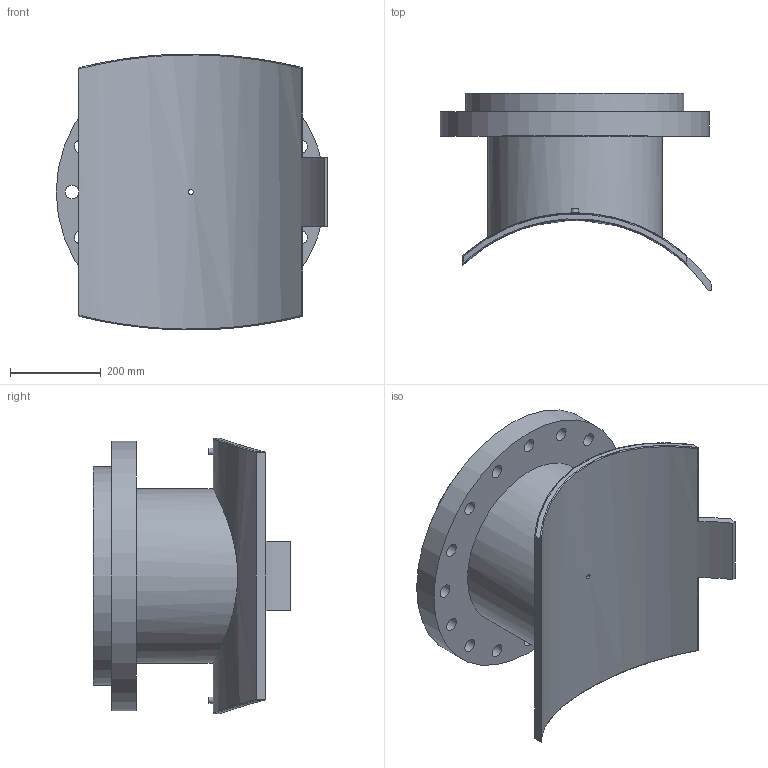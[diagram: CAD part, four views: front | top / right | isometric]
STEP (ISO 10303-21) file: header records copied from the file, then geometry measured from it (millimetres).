
FILE_DESCRIPTION(/* description */ ('PLASSON FLANGED BRANCH SADDLE 710X400_'),/* implementation_level */ '2;1');
FILE_NAME(/* name */ 'C:\Dropbox\KIMPROJECTS-Inventor 2019\99-16-3568-Processing\ElectroFusion Fittings\495904_495903\stp\495903710400T.stp',/* time_stamp */ '2024-04-03T21:06:21+02:00',/* author */ ('KIM'),/* organization */ (''),/* preprocessor_version */ 'ST-DEVELOPER v17.2',/* originating_system */ 'Autodesk Inventor 2019',/* authorisation */ '');
FILE_SCHEMA (('AUTOMOTIVE_DESIGN { 1 0 10303 214 3 1 1 }'));
Length unit declared in the file: millimetre
Products named in the file (1): 495903710400T
Bounding box: 600 x 436.94 x 609.69 mm (x, y, z)
Volume: 25239236.6 mm3; surface area: 1793411.4 mm2
Topology: 1 solids, 1 shells, 67 faces, 178 edges, 136 vertices
Faces by surface type: cylinder 40, plane 17, sphere 4, bspline 4, cone 2
Full cylindrical faces by diameter (mm): 4 x2, 10 x2, 10.4 x1, 16 x1, 30 x16, 327 x1, 385.6 x1, 482 x1, 595 x1
Entity records: 2825 total; most frequent: CARTESIAN_POINT 1036, DIRECTION 360, ORIENTED_EDGE 328, EDGE_CURVE 164, AXIS2_PLACEMENT_3D 152, EDGE_LOOP 112, VERTEX_POINT 110, CIRCLE 88
